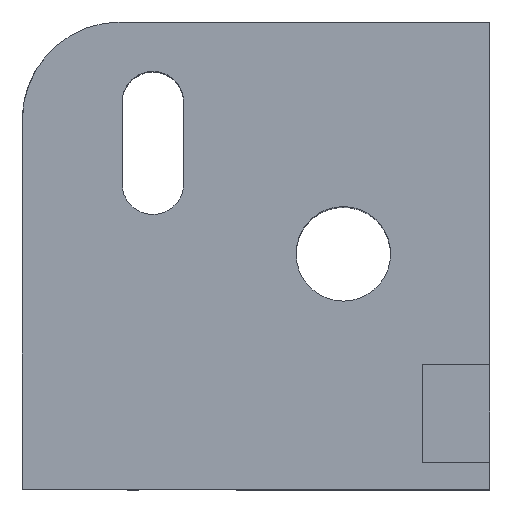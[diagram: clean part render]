
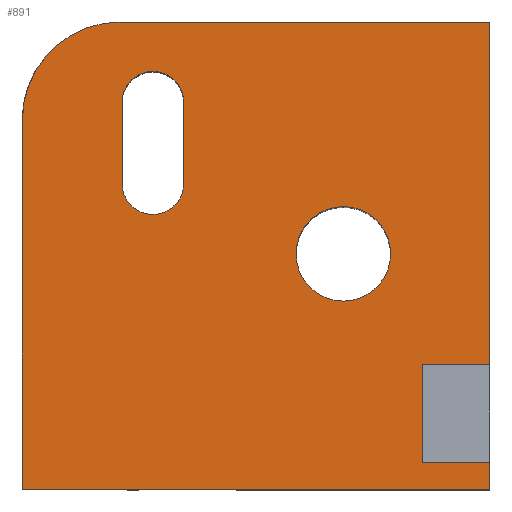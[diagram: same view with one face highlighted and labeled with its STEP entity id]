
A CAD part, top view. The second image highlights one B-rep face of the part: STEP entity #891.
In plain terms, the highlighted planar face has unit normal (0, 0, 1).
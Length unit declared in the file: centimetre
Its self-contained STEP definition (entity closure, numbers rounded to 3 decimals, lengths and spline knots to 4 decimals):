
#19 = ORIENTED_EDGE ( 'NONE', *, *, #975, .F. ) ;
#59 = FACE_OUTER_BOUND ( 'NONE', #1183, .T. ) ;
#69 = CARTESIAN_POINT ( 'NONE',  ( 0., 0., 1000. ) ) ;
#74 = AXIS2_PLACEMENT_3D ( 'NONE', #1345, #1514, #1706 ) ;
#75 = CARTESIAN_POINT ( 'NONE',  ( 855.8093, 267.6447, 1000. ) ) ;
#116 = CARTESIAN_POINT ( 'NONE',  ( 855.8093, 58.0089, 1000. ) ) ;
#131 = CARTESIAN_POINT ( 'NONE',  ( 209.0828, 1000., 1000. ) ) ;
#134 = AXIS2_PLACEMENT_3D ( 'NONE', #1449, #365, #1322 ) ;
#135 = CARTESIAN_POINT ( 'NONE',  ( 0., 1000., 1000. ) ) ;
#152 = EDGE_CURVE ( 'NONE', #795, #674, #644, .T. ) ;
#163 = VECTOR ( 'NONE', #1568, 100. ) ;
#196 = CARTESIAN_POINT ( 'NONE',  ( 345.231, 828.2686, 1000. ) ) ;
#213 = EDGE_CURVE ( 'NONE', #1845, #889, #1632, .T. ) ;
#239 = EDGE_CURVE ( 'NONE', #816, #1845, #556, .T. ) ;
#243 = VERTEX_POINT ( 'NONE', #1490 ) ;
#248 = CARTESIAN_POINT ( 'NONE',  ( 209.0828, 790.9172, 1000. ) ) ;
#251 = VERTEX_POINT ( 'NONE', #280 ) ;
#280 = CARTESIAN_POINT ( 'NONE',  ( 345.231, 653.9678, 1000. ) ) ;
#287 = LINE ( 'NONE', #1179, #877 ) ;
#288 = CARTESIAN_POINT ( 'NONE',  ( 585.8127, 503.7145, 1000. ) ) ;
#291 = VECTOR ( 'NONE', #301, 100. ) ;
#300 = VERTEX_POINT ( 'NONE', #1513 ) ;
#301 = DIRECTION ( 'NONE',  ( 0., -1., 0. ) ) ;
#308 = DIRECTION ( 'NONE',  ( -1., 0., 0. ) ) ;
#331 = DIRECTION ( 'NONE',  ( 0., -1., 0. ) ) ;
#334 = EDGE_CURVE ( 'NONE', #889, #243, #287, .T. ) ;
#354 = AXIS2_PLACEMENT_3D ( 'NONE', #1616, #1778, #1575 ) ;
#365 = DIRECTION ( 'NONE',  ( 0., 0., 1. ) ) ;
#383 = CARTESIAN_POINT ( 'NONE',  ( 213.3482, 653.9678, 1000. ) ) ;
#403 = ORIENTED_EDGE ( 'NONE', *, *, #525, .T. ) ;
#410 = LINE ( 'NONE', #1938, #1988 ) ;
#464 = CARTESIAN_POINT ( 'NONE',  ( 1000., 1000., 1000. ) ) ;
#480 = LINE ( 'NONE', #464, #1041 ) ;
#484 = CARTESIAN_POINT ( 'NONE',  ( 855.8093, 58.0089, 1000. ) ) ;
#490 = VERTEX_POINT ( 'NONE', #914 ) ;
#493 = CARTESIAN_POINT ( 'NONE',  ( 213.3482, 828.2686, 1000. ) ) ;
#506 = LINE ( 'NONE', #1107, #1526 ) ;
#517 = DIRECTION ( 'NONE',  ( 0., -1., 0. ) ) ;
#525 = EDGE_CURVE ( 'NONE', #1116, #816, #941, .T. ) ;
#556 = CIRCLE ( 'NONE', #1330, 209.0828 ) ;
#586 = ORIENTED_EDGE ( 'NONE', *, *, #1104, .T. ) ;
#625 = VERTEX_POINT ( 'NONE', #1879 ) ;
#626 = CARTESIAN_POINT ( 'NONE',  ( 345.231, 828.2686, 1000. ) ) ;
#637 = VERTEX_POINT ( 'NONE', #75 ) ;
#644 = CIRCLE ( 'NONE', #1363, 65.9414 ) ;
#666 = DIRECTION ( 'NONE',  ( 0., 1., 0. ) ) ;
#670 = EDGE_LOOP ( 'NONE', ( #1627, #756, #2003, #727 ) ) ;
#674 = VERTEX_POINT ( 'NONE', #493 ) ;
#727 = ORIENTED_EDGE ( 'NONE', *, *, #1624, .F. ) ;
#754 = LINE ( 'NONE', #2010, #291 ) ;
#756 = ORIENTED_EDGE ( 'NONE', *, *, #1473, .F. ) ;
#767 = ORIENTED_EDGE ( 'NONE', *, *, #334, .T. ) ;
#788 = ORIENTED_EDGE ( 'NONE', *, *, #1198, .T. ) ;
#795 = VERTEX_POINT ( 'NONE', #626 ) ;
#816 = VERTEX_POINT ( 'NONE', #131 ) ;
#846 = LINE ( 'NONE', #484, #940 ) ;
#877 = VECTOR ( 'NONE', #1684, 100. ) ;
#889 = VERTEX_POINT ( 'NONE', #69 ) ;
#891 = ADVANCED_FACE ( 'NONE', ( #948, #1925, #59 ), #1156, .T. ) ;
#914 = CARTESIAN_POINT ( 'NONE',  ( 855.8093, 58.0089, 1000. ) ) ;
#940 = VECTOR ( 'NONE', #331, 100. ) ;
#941 = LINE ( 'NONE', #135, #163 ) ;
#946 = CARTESIAN_POINT ( 'NONE',  ( 1000., 1000., 1000. ) ) ;
#948 = FACE_BOUND ( 'NONE', #1042, .T. ) ;
#953 = DIRECTION ( 'NONE',  ( 0., 1., 0. ) ) ;
#975 = EDGE_CURVE ( 'NONE', #637, #490, #846, .T. ) ;
#985 = EDGE_CURVE ( 'NONE', #1728, #251, #1625, .T. ) ;
#995 = VECTOR ( 'NONE', #666, 100. ) ;
#1019 = ORIENTED_EDGE ( 'NONE', *, *, #1352, .T. ) ;
#1025 = DIRECTION ( 'NONE',  ( 1., 0., 0. ) ) ;
#1041 = VECTOR ( 'NONE', #1378, 100. ) ;
#1042 = EDGE_LOOP ( 'NONE', ( #586, #1019 ) ) ;
#1104 = EDGE_CURVE ( 'NONE', #1445, #1697, #1726, .T. ) ;
#1107 = CARTESIAN_POINT ( 'NONE',  ( 1000., 1000., 1000. ) ) ;
#1116 = VERTEX_POINT ( 'NONE', #946 ) ;
#1134 = LINE ( 'NONE', #196, #995 ) ;
#1156 = PLANE ( 'NONE',  #354 ) ;
#1165 = VECTOR ( 'NONE', #517, 100. ) ;
#1179 = CARTESIAN_POINT ( 'NONE',  ( 0., 0., 1000. ) ) ;
#1183 = EDGE_LOOP ( 'NONE', ( #1826, #1291, #403, #1281, #1246, #767, #788, #1276, #19 ) ) ;
#1198 = EDGE_CURVE ( 'NONE', #243, #625, #480, .T. ) ;
#1200 = DIRECTION ( 'NONE',  ( -1., 0., 0. ) ) ;
#1246 = ORIENTED_EDGE ( 'NONE', *, *, #213, .T. ) ;
#1265 = AXIS2_PLACEMENT_3D ( 'NONE', #1634, #1323, #308 ) ;
#1276 = ORIENTED_EDGE ( 'NONE', *, *, #1762, .F. ) ;
#1281 = ORIENTED_EDGE ( 'NONE', *, *, #239, .T. ) ;
#1291 = ORIENTED_EDGE ( 'NONE', *, *, #1528, .T. ) ;
#1299 = DIRECTION ( 'NONE',  ( -1., 0., 0. ) ) ;
#1307 = CARTESIAN_POINT ( 'NONE',  ( 788.1164, 503.7145, 1000. ) ) ;
#1314 = EDGE_CURVE ( 'NONE', #300, #637, #410, .T. ) ;
#1320 = CARTESIAN_POINT ( 'NONE',  ( 0., 790.9172, 1000. ) ) ;
#1322 = DIRECTION ( 'NONE',  ( -1., 0., 0. ) ) ;
#1323 = DIRECTION ( 'NONE',  ( 0., 0., -1. ) ) ;
#1330 = AXIS2_PLACEMENT_3D ( 'NONE', #248, #1961, #1522 ) ;
#1345 = CARTESIAN_POINT ( 'NONE',  ( 686.9645, 503.7145, 1000. ) ) ;
#1352 = EDGE_CURVE ( 'NONE', #1697, #1445, #1849, .T. ) ;
#1363 = AXIS2_PLACEMENT_3D ( 'NONE', #1472, #1748, #1299 ) ;
#1378 = DIRECTION ( 'NONE',  ( 0., 1., 0. ) ) ;
#1445 = VERTEX_POINT ( 'NONE', #288 ) ;
#1449 = CARTESIAN_POINT ( 'NONE',  ( 279.2896, 653.9678, 1000. ) ) ;
#1472 = CARTESIAN_POINT ( 'NONE',  ( 279.2896, 828.2686, 1000. ) ) ;
#1473 = EDGE_CURVE ( 'NONE', #674, #1728, #754, .T. ) ;
#1481 = LINE ( 'NONE', #116, #1857 ) ;
#1490 = CARTESIAN_POINT ( 'NONE',  ( 1000., 0., 1000. ) ) ;
#1513 = CARTESIAN_POINT ( 'NONE',  ( 1000., 267.6447, 1000. ) ) ;
#1514 = DIRECTION ( 'NONE',  ( 0., 0., -1. ) ) ;
#1522 = DIRECTION ( 'NONE',  ( 1., 0., 0. ) ) ;
#1526 = VECTOR ( 'NONE', #953, 100. ) ;
#1528 = EDGE_CURVE ( 'NONE', #300, #1116, #506, .T. ) ;
#1568 = DIRECTION ( 'NONE',  ( -1., 0., 0. ) ) ;
#1575 = DIRECTION ( 'NONE',  ( 1., 0., 0. ) ) ;
#1616 = CARTESIAN_POINT ( 'NONE',  ( 0., 0., 1000. ) ) ;
#1624 = EDGE_CURVE ( 'NONE', #251, #795, #1134, .T. ) ;
#1625 = CIRCLE ( 'NONE', #134, 65.9414 ) ;
#1627 = ORIENTED_EDGE ( 'NONE', *, *, #985, .F. ) ;
#1632 = LINE ( 'NONE', #1913, #1165 ) ;
#1634 = CARTESIAN_POINT ( 'NONE',  ( 686.9645, 503.7145, 1000. ) ) ;
#1684 = DIRECTION ( 'NONE',  ( 1., 0., 0. ) ) ;
#1697 = VERTEX_POINT ( 'NONE', #1307 ) ;
#1706 = DIRECTION ( 'NONE',  ( -1., 0., 0. ) ) ;
#1726 = CIRCLE ( 'NONE', #74, 101.1518 ) ;
#1728 = VERTEX_POINT ( 'NONE', #383 ) ;
#1748 = DIRECTION ( 'NONE',  ( 0., 0., 1. ) ) ;
#1762 = EDGE_CURVE ( 'NONE', #490, #625, #1481, .T. ) ;
#1778 = DIRECTION ( 'NONE',  ( 0., 0., 1. ) ) ;
#1826 = ORIENTED_EDGE ( 'NONE', *, *, #1314, .F. ) ;
#1845 = VERTEX_POINT ( 'NONE', #1320 ) ;
#1849 = CIRCLE ( 'NONE', #1265, 101.1518 ) ;
#1857 = VECTOR ( 'NONE', #1025, 100. ) ;
#1879 = CARTESIAN_POINT ( 'NONE',  ( 1000., 58.0089, 1000. ) ) ;
#1913 = CARTESIAN_POINT ( 'NONE',  ( 0., 1000., 1000. ) ) ;
#1925 = FACE_BOUND ( 'NONE', #670, .T. ) ;
#1938 = CARTESIAN_POINT ( 'NONE',  ( 855.8093, 267.6447, 1000. ) ) ;
#1961 = DIRECTION ( 'NONE',  ( 0., 0., 1. ) ) ;
#1988 = VECTOR ( 'NONE', #1200, 100. ) ;
#2003 = ORIENTED_EDGE ( 'NONE', *, *, #152, .F. ) ;
#2010 = CARTESIAN_POINT ( 'NONE',  ( 213.3482, 653.9678, 1000. ) ) ;
